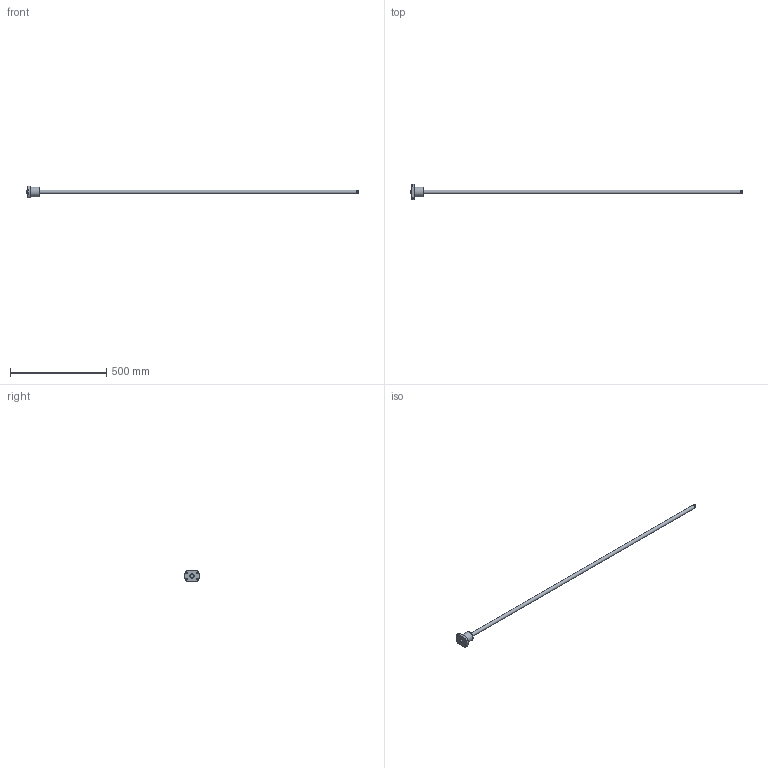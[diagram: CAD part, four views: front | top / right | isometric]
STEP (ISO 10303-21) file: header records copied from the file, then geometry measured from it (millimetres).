
FILE_DESCRIPTION( ( 'STEP AP203' ), ' ' );
FILE_NAME( 'p:/temp/worker_47/1504_1140/app_49_12018011810400822142548818fa3fd_000000_00_00_000000/format_0/BTK 1808V-3.6ZZ+1721LT_16400.stp', '2018-01-18T09:40:08', ( '' ), ( '' ), ' ', 'PARTsolutions', ' ' );
FILE_SCHEMA( ( 'CONFIG_CONTROL_DESIGN' ) );
Length unit declared in the file: millimetre
Products named in the file (3): BTK 1808V-3.6ZZ+1721LT_16400; _BTK 1808V-3.61640 Shaft; _BTK 1808V-3.6ZZ Nut
Assembly tree (2 placements, depth 2):
  BTK 1808V-3.6ZZ+1721LT_16400
    _BTK 1808V-3.61640 Shaft
    _BTK 1808V-3.6ZZ Nut
Bounding box: 1721 x 80 x 60 mm (x, y, z)
Volume: 565046.5 mm3; surface area: 122003.9 mm2
Topology: 2 solids, 2 shells, 39 faces, 84 edges, 55 vertices
Faces by surface type: cylinder 17, plane 14, cone 8
Full cylindrical faces by diameter (mm): 4.917 x1, 6.6 x4, 14.4 x2, 18 x4, 21.6 x2, 45 x1, 50 x1
Entity records: 1196 total; most frequent: CARTESIAN_POINT 297, DIRECTION 174, ORIENTED_EDGE 122, AXIS2_PLACEMENT_3D 82, EDGE_LOOP 76, EDGE_CURVE 61, FACE_OUTER_BOUND 54, VERTEX_POINT 51
